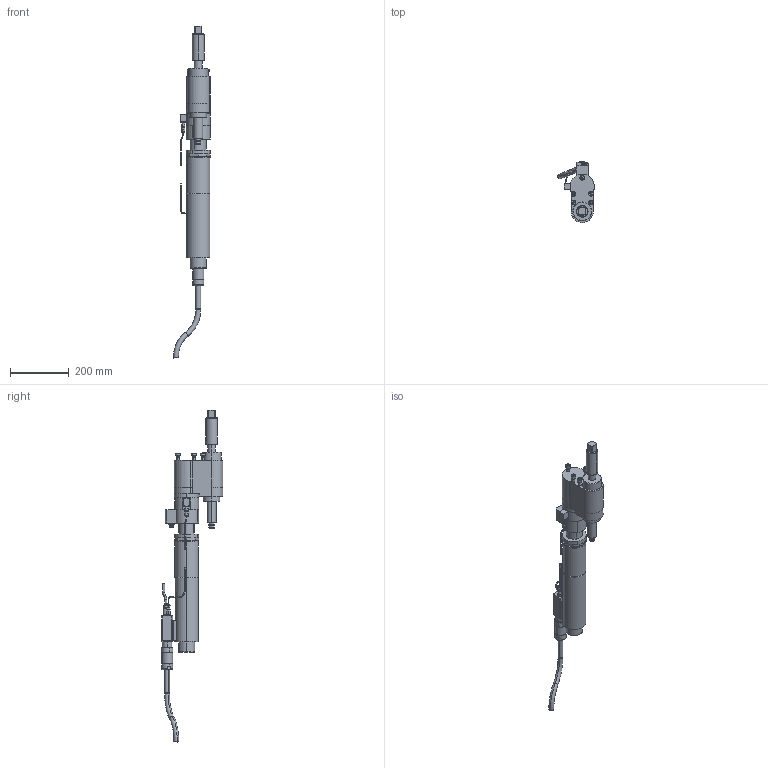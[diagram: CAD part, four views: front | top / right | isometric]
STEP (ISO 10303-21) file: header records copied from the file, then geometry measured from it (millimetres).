
FILE_DESCRIPTION(('CATIA V5 STEP'),'2;1');
FILE_NAME('O:\3D-Schrauber\stp\7920260_ECR344_DWR450_W3_AOD325-800_AllCATPart.stp','2010-05-05T11:02:11+00:00',('none'),('none'),'CATIA Version 5 Release 19 SP 3 (IN-10)','CATIA V5 STEP AP214','none');
FILE_SCHEMA(('AUTOMOTIVE_DESIGN { 1 0 10303 214 1 1 1 1 }'));
Length unit declared in the file: millimetre
Products named in the file (1): 7920260_ECR344_DWR450_W3_AOD325-800_AllCATPart
Bounding box: 125.32 x 209.98 x 1133.66 mm (x, y, z)
Volume: 4783143.7 mm3; surface area: 390734.2 mm2
Topology: 25 solids, 25 shells, 632 faces, 1422 edges, 893 vertices
Faces by surface type: plane 268, cylinder 226, cone 86, torus 48, bspline 4
Entity records: 16926 total; most frequent: CARTESIAN_POINT 3569, ORIENTED_EDGE 2824, DIRECTION 2278, EDGE_CURVE 1412, AXIS2_PLACEMENT_3D 1145, VERTEX_POINT 893, EDGE_LOOP 695, CIRCLE 677
